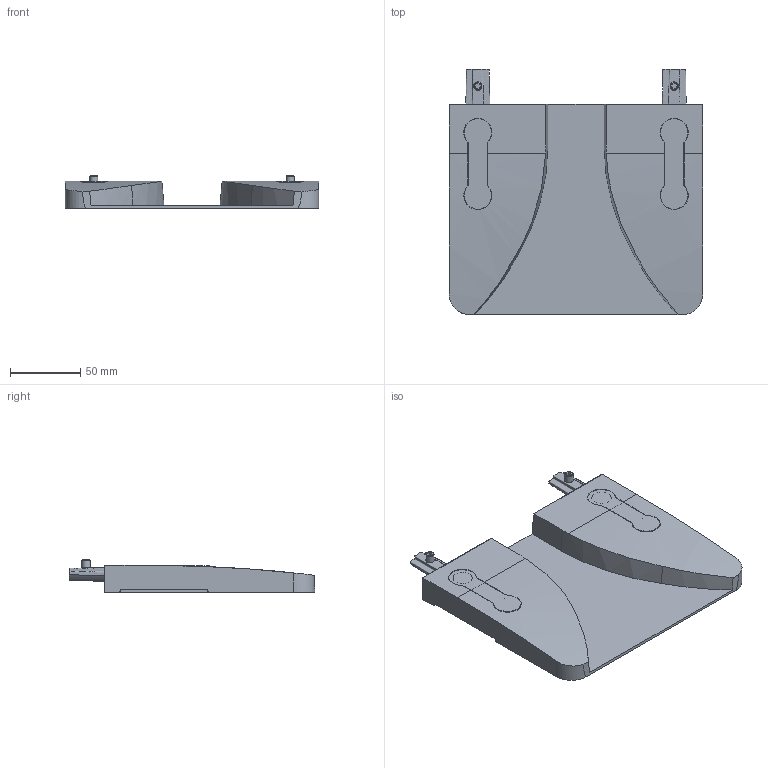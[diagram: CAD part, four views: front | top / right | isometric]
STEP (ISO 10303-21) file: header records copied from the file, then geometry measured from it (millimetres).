
FILE_DESCRIPTION(/* description */ ('STEP AP214'),/* implementation_level */ '2;1');
FILE_NAME(/* name */ '02082CCS01',/* time_stamp */ '2026-01-21T16:38:14+01:00',/* author */ ('License CC BY-ND 4.0'),/* organization */ ('CADENAS'),/* preprocessor_version */ 'ST-DEVELOPER v20',/* originating_system */ 'PARTsolutions',/* authorisation */ ' ');
FILE_SCHEMA (('AUTOMOTIVE_DESIGN {1 0 10303 214 3 1 1}'));
Length unit declared in the file: millimetre
Products named in the file (1): 02082CCS01
Bounding box: 180.7 x 175 x 23 mm (x, y, z)
Volume: 122813.4 mm3; surface area: 110744.1 mm2
Topology: 1 solids, 1 shells, 452 faces, 1289 edges, 871 vertices
Faces by surface type: plane 194, cylinder 129, cone 72, torus 52, bspline 5
Full cylindrical faces by diameter (mm): 4.917 x2, 6 x2, 6.6 x4
Entity records: 18287 total; most frequent: CARTESIAN_POINT 3666, ORIENTED_EDGE 2456, DIRECTION 2254, EDGE_CURVE 1228, VERTEX_POINT 860, AXIS2_PLACEMENT_3D 832, LINE 590, VECTOR 590
